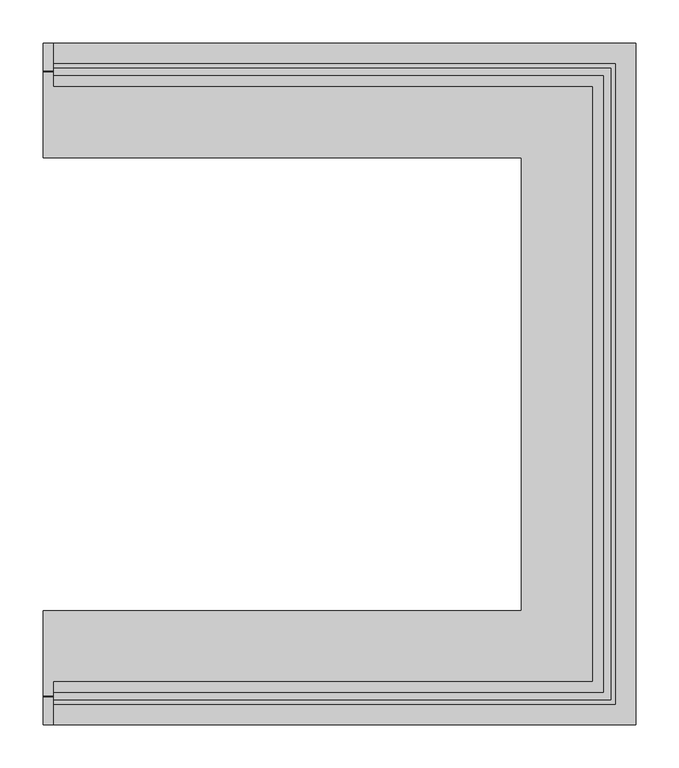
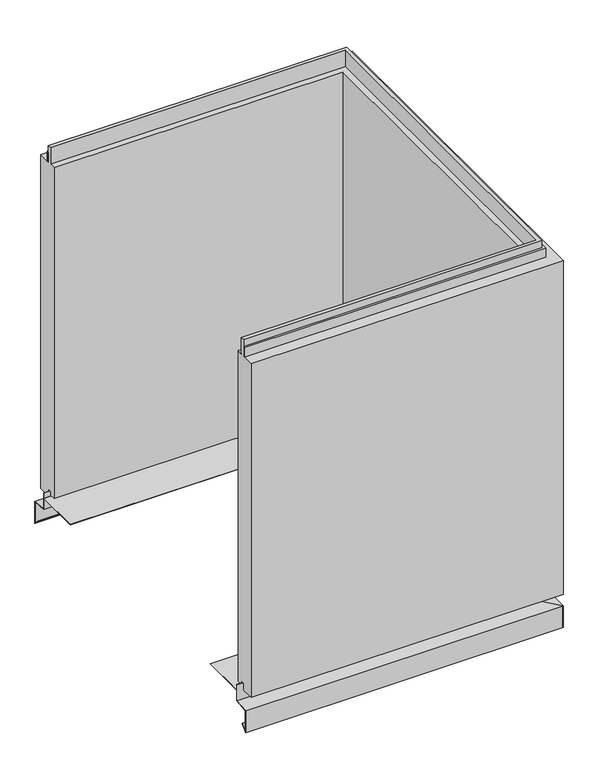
"""IFC4 building model written with IfcOpenShell, lengths in millimetres: plate geometry, Trimo_Qbiss Screen_U Corner Panel-HORIZONTAL : HR - B."""

import ifcopenshell
import ifcopenshell.guid

model = None  # the IFC model being written
_history = None  # IfcOwnerHistory: only IFC2X3 demands one
_inside = {}  # id of a spatial element -> (the spatial element, [elements in it])
_under = {}  # id of a project, library or spatial element -> (it, [spatial elements below it])
_declared = {}  # id of a project -> (the project, [libraries it declares])
_typed = {}  # id of a type object -> (the type object, [elements of that type])
_made_of = {}  # id of a material, layer set ... -> (it, [elements and type objects made of it])


def new_model(schema):
    """Start an empty IFC model of exactly this schema.

    Asked for "IFC4X3", IfcOpenShell would pick the latest addendum, in which some entities
    have other attributes; the version numbers below select the first issue.
    IFC2X3 requires an IfcOwnerHistory on every rooted entity: one is made here for all.
    """
    global model, _history
    if schema == "IFC4X3":
        model = ifcopenshell.file(schema_version=(4, 3, 0, 0))
    else:
        model = ifcopenshell.file(schema=schema)
    _inside.clear()
    _under.clear()
    _declared.clear()
    _typed.clear()
    _made_of.clear()
    _history = None
    if model.schema == "IFC2X3":
        org = make("IfcOrganization", Name="unknown")
        user = make(
            "IfcPersonAndOrganization",
            ThePerson=make("IfcPerson", FamilyName="unknown"),
            TheOrganization=org,
        )
        app = make(
            "IfcApplication",
            ApplicationDeveloper=org,
            Version="unknown",
            ApplicationFullName="unknown",
            ApplicationIdentifier="unknown",
        )
        _history = make(
            "IfcOwnerHistory",
            OwningUser=user,
            OwningApplication=app,
            ChangeAction="ADDED",
            CreationDate=0,
        )
    return model


def make(cls, **values):
    """One entity of the class cls with the attributes given. An attribute that is None is left unset."""
    return model.create_entity(
        cls, **{name: value for name, value in values.items() if value is not None}
    )


def rooted(cls, **values):
    """An entity with a GlobalId (a new one), such as an element, a storey or a relation."""
    return make(cls, GlobalId=ifcopenshell.guid.new(), OwnerHistory=_history, **values)


def si_unit(unit_type, name, prefix=None):
    """IfcSIUnit, for example si_unit("LENGTHUNIT", "METRE", prefix="MILLI")."""
    return make("IfcSIUnit", UnitType=unit_type, Prefix=prefix, Name=name)


def assignment(units):
    """IfcUnitAssignment: the units of a project."""
    return None if units is None else make("IfcUnitAssignment", Units=units)


def point(xyz):
    """IfcCartesianPoint."""
    return None if xyz is None else make("IfcCartesianPoint", Coordinates=xyz)


def direction(xyz):
    """IfcDirection."""
    return None if xyz is None else make("IfcDirection", DirectionRatios=xyz)


def frame(location, z_axis=None, x_axis=None):
    """IfcAxis2Placement3D, a coordinate frame: its origin and axes. An axis left out is left unset."""
    return make(
        "IfcAxis2Placement3D",
        Location=point(location),
        Axis=direction(z_axis),
        RefDirection=direction(x_axis),
    )


def origin():
    """The frame at (0, 0, 0) with its axes left unset."""
    return frame((0.0, 0.0, 0.0))


def place(relative_to, where):
    """IfcLocalPlacement: puts the frame where relative to a parent placement (None: the world)."""
    return make(
        "IfcLocalPlacement", PlacementRelTo=relative_to, RelativePlacement=where
    )


def context(
    kind, dimensions, precision=None, world=None, true_north=None, identifier=None
):
    """IfcGeometricRepresentationContext, for example the 3D "Model" context."""
    return make(
        "IfcGeometricRepresentationContext",
        ContextIdentifier=identifier,
        ContextType=kind,
        CoordinateSpaceDimension=dimensions,
        Precision=precision,
        WorldCoordinateSystem=world,
        TrueNorth=true_north,
    )


def project(units=None, contexts=None):
    """IfcProject with its units and contexts."""
    return rooted(
        "IfcProject",
        Name="project",
        RepresentationContexts=contexts,
        UnitsInContext=assignment(units),
    )


def spatial(cls, under=None, at=None, **own):
    """A site, building, storey or space (cls), placed at a placement, below another one or the project."""
    s = rooted(cls, ObjectPlacement=at, **own)
    if under is not None:
        _under.setdefault(under.id(), (under, []))[1].append(s)
    return s


def polyline(points):
    """IfcPolyline through the points."""
    return make("IfcPolyline", Points=[point(p) for p in points])


def outline(outer, holes=None, kind="AREA"):
    """IfcArbitraryClosedProfileDef: a profile drawn as a closed curve; with holes, ...WithVoids."""
    if holes is None:
        return make("IfcArbitraryClosedProfileDef", ProfileType=kind, OuterCurve=outer)
    return make(
        "IfcArbitraryProfileDefWithVoids",
        ProfileType=kind,
        OuterCurve=outer,
        InnerCurves=holes,
    )


def extrude(swept, where, along, depth):
    """IfcExtrudedAreaSolid: the profile swept, set in the frame where, extruded along a direction by depth."""
    return make(
        "IfcExtrudedAreaSolid",
        SweptArea=swept,
        Position=where,
        ExtrudedDirection=direction(along),
        Depth=depth,
    )


def faces_of(points, faces, orient=None, outer=None):
    """IfcFace entities. A face is a list of loops; a loop is a list of indices into points, from 0.

    orient and outer hold one flag for each loop. By default every Orientation is true, the
    first loop of a face is its IfcFaceOuterBound and the others are IfcFaceBound.
    """
    made = []
    for i, loops in enumerate(faces):
        bounds = []
        for j, loop in enumerate(loops):
            is_outer = j == 0 if outer is None else outer[i][j]
            bounds.append(
                make(
                    "IfcFaceOuterBound" if is_outer else "IfcFaceBound",
                    Bound=make("IfcPolyLoop", Polygon=[points[k] for k in loop]),
                    Orientation=True if orient is None else orient[i][j],
                )
            )
        made.append(make("IfcFace", Bounds=bounds))
    return made


def faceted_brep(points, faces, orient=None, outer=None, voids=None):
    """IfcFacetedBrep: a solid bounded by flat faces; with voids (closed shells), ...WithVoids."""
    shared = [point(p) for p in points]
    hull = make("IfcClosedShell", CfsFaces=faces_of(shared, faces, orient, outer))
    if voids is None:
        return make("IfcFacetedBrep", Outer=hull)
    return make(
        "IfcFacetedBrepWithVoids",
        Outer=hull,
        Voids=[
            make(cls, CfsFaces=faces_of(shared, fs, o, b)) for cls, fs, o, b in voids
        ],
    )


def shape(context_of_items, identifier, shape_type, items):
    """IfcShapeRepresentation: the items that make up one representation, for example the "Body"."""
    return make(
        "IfcShapeRepresentation",
        ContextOfItems=context_of_items,
        RepresentationIdentifier=identifier,
        RepresentationType=shape_type,
        Items=items,
    )


def source(mapping_origin, context_of_items, identifier, shape_type, items):
    """IfcRepresentationMap: a shape defined once, which mapped items show again and again."""
    return make(
        "IfcRepresentationMap",
        MappingOrigin=mapping_origin,
        MappedRepresentation=shape(context_of_items, identifier, shape_type, items),
    )


def transform(
    local_origin,
    x_axis=None,
    y_axis=None,
    z_axis=None,
    scale=None,
    scale2=None,
    scale3=None,
    uniform=True,
):
    """IfcCartesianTransformationOperator3D, or its non-uniform kind. x_axis, y_axis, z_axis: its Axis1, 2, 3."""
    if uniform:
        return make(
            "IfcCartesianTransformationOperator3D",
            Axis1=direction(x_axis),
            Axis2=direction(y_axis),
            LocalOrigin=point(local_origin),
            Scale=scale,
            Axis3=direction(z_axis),
        )
    return make(
        "IfcCartesianTransformationOperator3DnonUniform",
        Axis1=direction(x_axis),
        Axis2=direction(y_axis),
        LocalOrigin=point(local_origin),
        Scale=scale,
        Axis3=direction(z_axis),
        Scale2=scale2,
        Scale3=scale3,
    )


def mapped(mapping_source, mapping_target):
    """IfcMappedItem: shows the shape of a source again, moved by a transform."""
    return make(
        "IfcMappedItem", MappingSource=mapping_source, MappingTarget=mapping_target
    )


def made_of(thing, what):
    """Note that an element or type object is made of a material, layer set ...; save() writes the relation."""
    if what is not None:
        _made_of.setdefault(what.id(), (what, []))[1].append(thing)
    return thing


def element(
    cls,
    number,
    at=None,
    inside=None,
    cuts=None,
    type_object=None,
    material=None,
    context=None,
    identifier="Body",
    shape_type=None,
    held_by="IfcProductDefinitionShape",
    body=None,
    shapes=None,
    **own,
):
    """One element of the class cls, such as IfcWall. Its Tag is "e" and its number.

    at: its placement. inside: the storey or other place that contains it. cuts: it is an
    opening in that element (IfcRelVoidsElement). A single representation is given by context,
    identifier, shape_type and body (its items); several are given by shapes. held_by: the class
    of the entity that holds the representations. save() writes the other relations.
    """
    e = rooted(cls, Tag="e%d" % number, ObjectPlacement=at, **own)
    if body is not None:
        shapes = [shape(context, identifier, shape_type, body)]
    if shapes is not None:
        e.Representation = make(held_by, Representations=shapes)
    if inside is not None:
        _inside.setdefault(inside.id(), (inside, []))[1].append(e)
    if cuts is not None:
        rooted(
            "IfcRelVoidsElement", RelatingBuildingElement=cuts, RelatedOpeningElement=e
        )
    if type_object is not None:
        _typed.setdefault(type_object.id(), (type_object, []))[1].append(e)
    return made_of(e, material)


def aggregate(whole, parts):
    """IfcRelAggregates: a whole, such as a stair, and the parts it consists of."""
    return rooted("IfcRelAggregates", RelatingObject=whole, RelatedObjects=parts)


def save(model, path):
    """Write the relations noted so far, then the file.

    IfcRelAggregates (storeys below a building ...), IfcRelContainedInSpatialStructure (elements
    in a storey), IfcRelDefinesByType, IfcRelAssociatesMaterial and IfcRelDeclares: one each for
    every whole, place, type object, material and project.
    """
    for whole, parts in _under.values():
        aggregate(whole, parts)
    for where, things in _inside.values():
        rooted(
            "IfcRelContainedInSpatialStructure",
            RelatedElements=things,
            RelatingStructure=where,
        )
    for kind, things in _typed.values():
        rooted("IfcRelDefinesByType", RelatedObjects=things, RelatingType=kind)
    for what, things in _made_of.values():
        rooted("IfcRelAssociatesMaterial", RelatedObjects=things, RelatingMaterial=what)
    for by, libraries in _declared.values():
        rooted("IfcRelDeclares", RelatingContext=by, RelatedDefinitions=libraries)
    model.write(path)


def plate_b5d269c1(model_context):
    return source(origin(), model_context, "Body", "SolidModel", [
        faceted_brep([(-312.5, 111.7, 14.0835797), (-312.5, 112.5, 14.0835797), (-312.5, 112.5, -23.0), (-312.5, 145.0, -25.8433816), (-312.5, 145.0, -76.0), (-312.5, 132.1509533, -63.1509533), (-312.5, 132.7166388, -62.5852679), (-312.5, 144.2, -74.0686292), (-312.5, 144.2, -26.5764465), (-312.5, 111.7, -23.7330649), (-312.5, 111.7, 1.0), (-312.5, 12.5, 1.0), (-312.5, 12.5, 1.8), (-312.5, 111.7, 1.8), (341.7, 111.7, 14.0835797), (341.7, -611.7, 14.0835797), (-312.5, -611.7, 14.0835797), (-312.5, -612.5, 14.0835797), (342.5, -612.5, 14.0835797), (342.5, 112.5, 14.0835797), (342.5, 112.5, -23.0), (375.0, 145.0, -25.8433816), (375.0, 145.0, -76.0), (362.1509533, 132.1509533, -63.1509533), (362.7166388, 132.7166388, -62.5852679), (374.2, 144.2, -74.0686292), (374.2, 144.2, -26.5764465), (341.7, 111.7, -23.7330649), (341.7, 111.7, 1.0), (341.7, -611.7, 1.0), (-312.5, -611.7, 1.0), (-312.5, -512.5, 1.0), (242.5, -512.5, 1.0), (242.5, 12.5, 1.0), (242.5, 12.5, 1.8), (242.5, -512.5, 1.8), (-312.5, -512.5, 1.8), (-312.5, -611.7, 1.8), (341.7, -611.7, 1.8), (341.7, 111.7, 1.8), (-312.5, -611.7, -23.7330649), (-312.5, -644.2, -26.5764465), (-312.5, -644.2, -74.0686292), (-312.5, -632.7166388, -62.5852679), (-312.5, -632.1509533, -63.1509533), (-312.5, -645.0, -76.0), (-312.5, -645.0, -25.8433816), (-312.5, -612.5, -23.0), (342.5, -612.5, -23.0), (375.0, -645.0, -25.8433816), (375.0, -645.0, -76.0), (362.1509533, -632.1509533, -63.1509533), (362.7166388, -632.7166388, -62.5852679), (374.2, -644.2, -74.0686292), (374.2, -644.2, -26.5764465), (341.7, -611.7, -23.7330649)], [[[0, 1, 2, 3, 4, 5, 6, 7, 8, 9, 10, 11, 12, 13]], [[1, 0, 14, 15, 16, 17, 18, 19]], [[2, 1, 19, 20]], [[3, 2, 20, 21]], [[4, 3, 21, 22]], [[5, 4, 22, 23]], [[6, 5, 23, 24]], [[7, 6, 24, 25]], [[8, 7, 25, 26]], [[9, 8, 26, 27]], [[10, 9, 27, 28]], [[11, 10, 28, 29, 30, 31, 32, 33]], [[13, 12, 34, 35, 36, 37, 38, 39]], [[0, 13, 39, 14]], [[16, 37, 36, 31, 30, 40, 41, 42, 43, 44, 45, 46, 47, 17]], [[20, 19, 18, 48]], [[21, 20, 48, 49]], [[22, 21, 49, 50]], [[23, 22, 50, 51]], [[24, 23, 51, 52]], [[25, 24, 52, 53]], [[26, 25, 53, 54]], [[27, 26, 54, 55]], [[28, 27, 55, 29]], [[14, 39, 38, 15]], [[48, 18, 17, 47]], [[49, 48, 47, 46]], [[50, 49, 46, 45]], [[51, 50, 45, 44]], [[52, 51, 44, 43]], [[53, 52, 43, 42]], [[54, 53, 42, 41]], [[55, 54, 41, 40]], [[29, 55, 40, 30]], [[15, 38, 37, 16]], [[12, 11, 33, 34]], [[34, 33, 32, 35]], [[35, 32, 31, 36]]]),
        faceted_brep([(-300.0, 116.0, 764.95), (-300.0, 145.0, 764.95), (-300.0, 145.0, 0.0), (-300.0, 117.0, 0.0), (-300.0, 117.0, 15.5), (-300.0, 107.0, 15.5), (-300.0, 107.0, 7.0), (-300.0, 95.0, 7.0), (-300.0, 95.0, 764.95), (-300.0, 108.0, 764.95), (-300.0, 108.0, 802.45), (-300.0, 116.0, 802.45), (346.0, 116.0, 764.95), (346.0, -616.0, 764.95), (-300.0, -616.0, 764.95), (-300.0, -645.0, 764.95), (375.0, -645.0, 764.95), (375.0, 145.0, 764.95), (375.0, 145.0, 0.0), (375.0, -645.0, 0.0), (-300.0, -645.0, 0.0), (-300.0, -617.0, 0.0), (347.0, -617.0, 0.0), (347.0, 117.0, 0.0), (347.0, 117.0, 15.5), (347.0, -617.0, 15.5), (-300.0, -617.0, 15.5), (-300.0, -607.0, 15.5), (337.0, -607.0, 15.5), (337.0, 107.0, 15.5), (337.0, 107.0, 7.0), (337.0, -607.0, 7.0), (-300.0, -607.0, 7.0), (-300.0, -595.0, 7.0), (325.0, -595.0, 7.0), (325.0, 95.0, 7.0), (325.0, 95.0, 764.95), (325.0, -595.0, 764.95), (-300.0, -595.0, 764.95), (-300.0, -608.0, 764.95), (338.0, -608.0, 764.95), (338.0, 108.0, 764.95), (338.0, 108.0, 802.45), (338.0, -608.0, 802.45), (-300.0, -608.0, 802.45), (-300.0, -616.0, 802.45), (346.0, -616.0, 802.45), (346.0, 116.0, 802.45)], [[[0, 1, 2, 3, 4, 5, 6, 7, 8, 9, 10, 11]], [[1, 0, 12, 13, 14, 15, 16, 17]], [[2, 1, 17, 18]], [[3, 2, 18, 19, 20, 21, 22, 23]], [[4, 3, 23, 24]], [[5, 4, 24, 25, 26, 27, 28, 29]], [[6, 5, 29, 30]], [[7, 6, 30, 31, 32, 33, 34, 35]], [[8, 7, 35, 36]], [[9, 8, 36, 37, 38, 39, 40, 41]], [[10, 9, 41, 42]], [[11, 10, 42, 43, 44, 45, 46, 47]], [[0, 11, 47, 12]], [[14, 45, 44, 39, 38, 33, 32, 27, 26, 21, 20, 15]], [[18, 17, 16, 19]], [[24, 23, 22, 25]], [[30, 29, 28, 31]], [[36, 35, 34, 37]], [[42, 41, 40, 43]], [[12, 47, 46, 13]], [[19, 16, 15, 20]], [[25, 22, 21, 26]], [[31, 28, 27, 32]], [[37, 34, 33, 38]], [[43, 40, 39, 44]], [[13, 46, 45, 14]]]),
        extrude(outline(polyline([(-300.0, 116.0), (-300.0, 121.0), (351.0, 121.0), (351.0, -621.0), (-300.0, -621.0), (-300.0, -616.0), (346.0, -616.0), (346.0, 116.0), (-300.0, 116.0)])), frame((0.0, 0.0, 765.95), z_axis=(0.0, 0.0, 1.0), x_axis=(1.0, 0.0, 0.0)), (0.0, 0.0, 1.0), 21.0),
    ])


if __name__ == "__main__":
    model = new_model("IFC4")
    model_context = context("Model", 3, world=origin())
    ifc_project = project(units=[si_unit("LENGTHUNIT", "METRE", prefix="MILLI")], contexts=[model_context])
    site = spatial("IfcSite", under=ifc_project)
    building = spatial("IfcBuilding", under=site)
    placement = place(None, origin())
    plate_shape = plate_b5d269c1(model_context)
    element("IfcPlate", 1, ObjectType="Trimo_Qbiss Screen_U Corner Panel-HORIZONTAL : HR - B", at=placement, inside=building, context=model_context, shape_type="MappedRepresentation", body=[
        mapped(plate_shape, transform((0.0, 0.0, 0.0), x_axis=(1.0, 0.0, 0.0), y_axis=(0.0, 1.0, 0.0), z_axis=(0.0, 0.0, 1.0))),
    ])
    save(model, "model.ifc")
